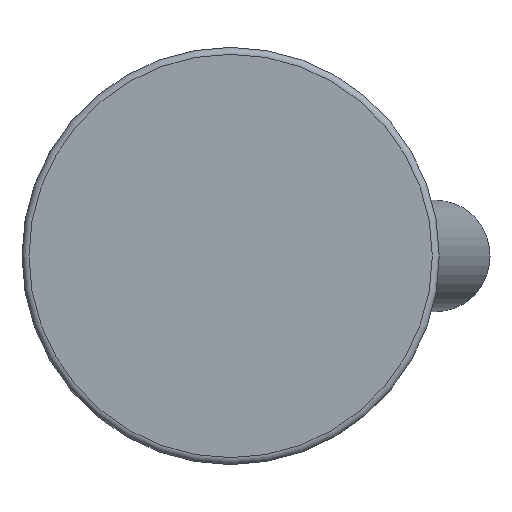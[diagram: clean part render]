
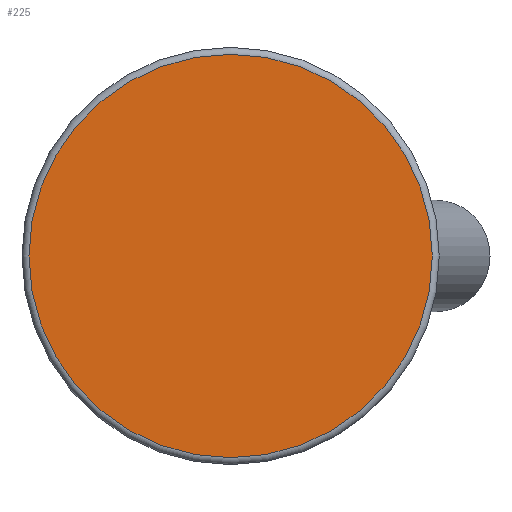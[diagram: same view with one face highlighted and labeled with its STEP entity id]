
A CAD part, front view. The second image highlights one B-rep face of the part: STEP entity #225.
In plain terms, the highlighted planar face has unit normal (0, -1, 0).
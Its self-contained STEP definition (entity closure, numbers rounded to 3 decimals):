
#225 = ADVANCED_FACE( '', ( #433 ), #434, .F. );
#433 = FACE_OUTER_BOUND( '', #633, .T. );
#434 = PLANE( '', #634 );
#633 = EDGE_LOOP( '', ( #1011 ) );
#634 = AXIS2_PLACEMENT_3D( '', #1012, #1013, #1014 );
#1011 = ORIENTED_EDGE( '', *, *, #1251, .T. );
#1012 = CARTESIAN_POINT( '', ( 29., 0., 0. ) );
#1013 = DIRECTION( '', ( 0., 1., 0. ) );
#1014 = DIRECTION( '', ( 0., 0., 1. ) );
#1251 = EDGE_CURVE( '', #1470, #1470, #1471, .T. );
#1470 = VERTEX_POINT( '', #1983 );
#1471 = CIRCLE( '', #1984, 29. );
#1983 = CARTESIAN_POINT( '', ( 0., 0., -29. ) );
#1984 = AXIS2_PLACEMENT_3D( '', #2135, #2136, #2137 );
#2135 = CARTESIAN_POINT( '', ( 0., 0., 0. ) );
#2136 = DIRECTION( '', ( 0., -1., 0. ) );
#2137 = DIRECTION( '', ( 0., 0., -1. ) );
